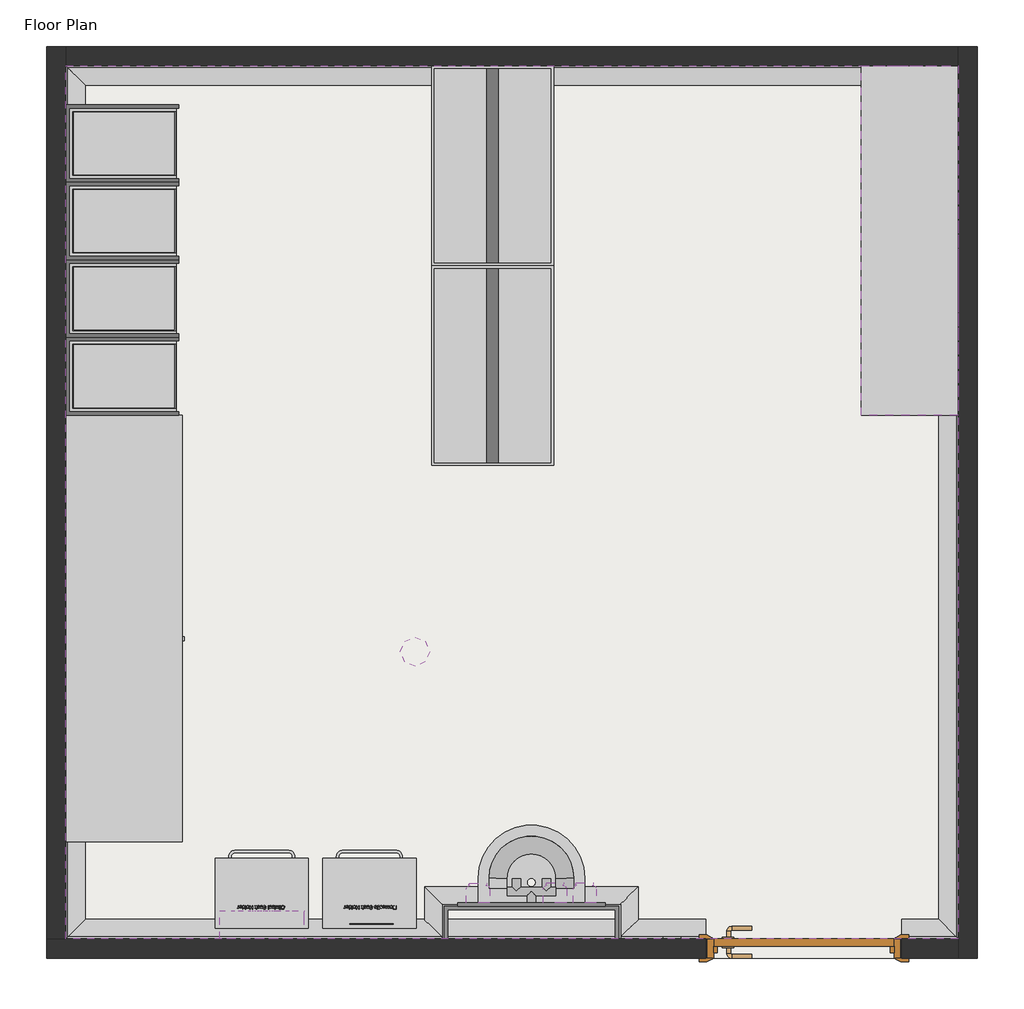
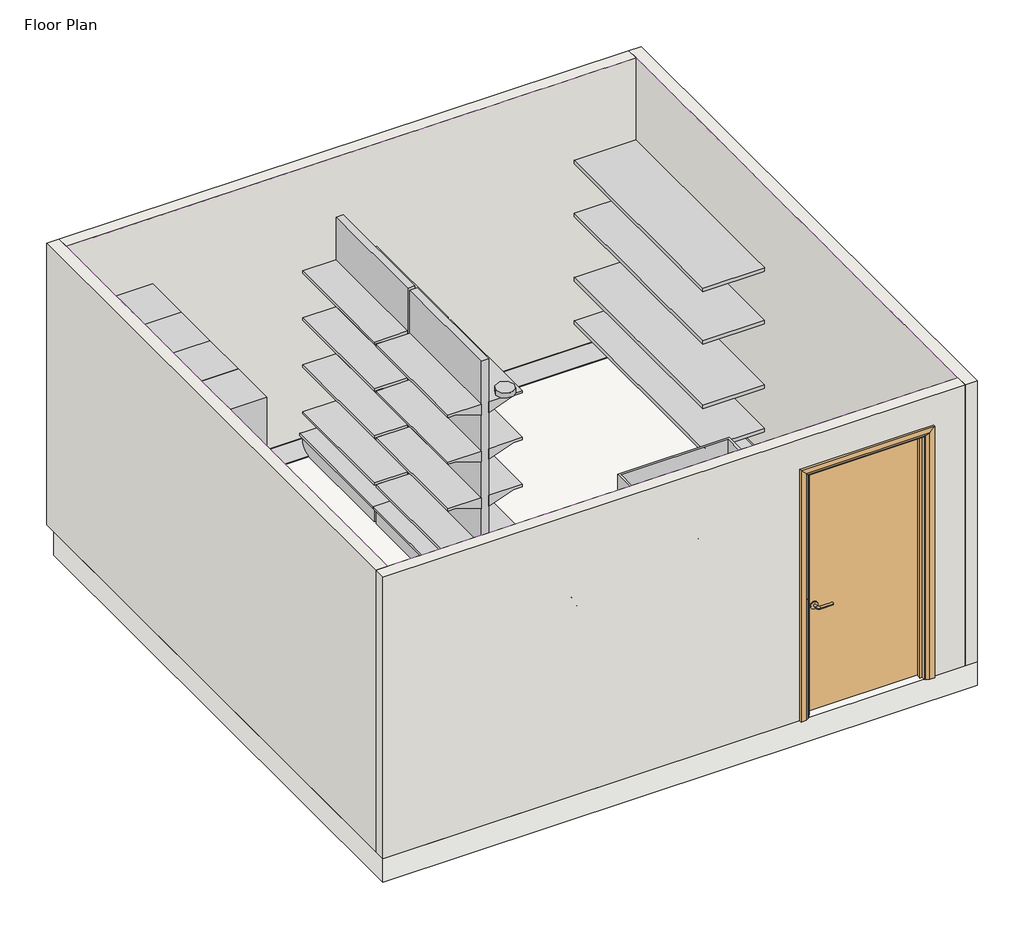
# One storey, incomplete: 20 proxies, 6 furniture elements, 4 walls, 2 flow terminals, 1 covering, 1 door, 1 slab.
"""IFC4 building model written with IfcOpenShell, lengths in millimetres."""

from ifc_helpers import new_model, si_unit, frame, origin, origin_with_axes, place, context, project, spatial, polyline, circle_curve, ellipse_curve, outline, extrude, faceted_brep, transform, mapped, element, save
from ifc_brep_helpers import plane_surface, revolved_surface, advanced_brep
from components import generic_models_60712680, generic_models_e594b69c, generic_models_75f95361, generic_models_883c4dca, generic_models_4aaa6221, generic_models_78f9e339, generic_models_7e8e4800, bimhealth_electrical_light_switch_v1_type_1_b5e59f8a, bimhealth_electrical_smoke_detector_v1_bimhealth_electrical_fe9fcb6c, doors_intsgl_1_1010x2110mm_f9eb5fde, flow_terminal_004a381b, flow_terminal_30861e1c, furniture_1db9d432, furniture_c1ab0958, furniture_6688fcf2, furniture_f7a0e78a, furniture_b2577ec9, furniture_894fabce

model = new_model("IFC4")

# Units and contexts
model_context = context("Model", 3, world=origin())
ifc_project = project(units=[si_unit("LENGTHUNIT", "METRE", prefix="MILLI")], contexts=[model_context])

# Site, building, storey
site = spatial("IfcSite", under=ifc_project)
building = spatial("IfcBuilding", under=site)
storey = spatial("IfcBuildingStorey", under=building, Name="Floor Plan", Elevation=0.0)

# Proxies
placement = place(None, origin())
element("IfcBuildingElementProxy", 1, Name="Wall Sweeps", at=placement, inside=storey, context=model_context, shape_type="AdvancedBrep", body=[
    advanced_brep(
    [(4505.0, 4915.0, 0.0), (4405.0, 4815.0, 0.0), (4405.0, 4815.0, 10.0), (4495.0, 4905.0, 100.0), (4505.0, 4915.0, 100.0), (4505.0, 415.0, 0.0), (4505.0, 415.0, 100.0), (4495.0, 425.0, 100.0), (4405.0, 515.0, 10.0), (4405.0, 515.0, 0.0)],
    [
        (0, 1),
        (1, 2),
        (2, 3, ellipse_curve(frame((4405.0, 4815.0, 100.0), z_axis=(0.7071067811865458, -0.7071067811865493, 0.0), x_axis=(-0.7071067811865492, -0.7071067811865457, 0.0)), 127.2792206, 90.0)),
        (3, 4),
        (4, 0),
        (5, 6),
        (6, 7),
        (7, 8, ellipse_curve(frame((4405.0, 515.0, 100.0), z_axis=(0.7071067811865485, 0.7071067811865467, 0.0), x_axis=(0.7071067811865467, -0.7071067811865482, 0.0)), 127.2792206, 90.0)),
        (8, 9),
        (9, 5),
        (0, 5),
        (9, 1),
        (8, 2),
        (7, 3),
        (6, 4),
    ],
    [
        plane_surface(frame((4505.0, 4915.0, 304.8), z_axis=(-0.7071067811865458, 0.7071067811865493, 0.0), x_axis=(-0.7071067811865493, -0.7071067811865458, 0.0))),
        plane_surface(frame((4505.0, 415.0, 304.8), z_axis=(-0.7071067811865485, -0.7071067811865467, 0.0), x_axis=(-0.7071067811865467, 0.7071067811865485, 0.0))),
        plane_surface(frame((4505.0, 4915.0, 0.0), z_axis=(0.0, 0.0, -1.0), x_axis=(0.0, -1.0, 0.0))),
        plane_surface(frame((4405.0, 4815.0, 0.0), z_axis=(-1.0, 0.0, 0.0), x_axis=(0.0, -1.0, 0.0))),
        revolved_surface(polyline([(4315.0, 425.0, 100.0), (4315.0, 4905.0, 100.0)]), (4405.0, 4915.0, 100.0), (0.0, -1.0, 0.0)),
        plane_surface(frame((4495.0, 4905.0, 100.0), z_axis=(0.0, 0.0, 1.0), x_axis=(0.0, -1.0, 0.0))),
        plane_surface(frame((4505.0, 4915.0, 100.0), z_axis=(1.0, 0.0, 0.0), x_axis=(0.0, -1.0, 0.0))),
    ],
    [
        (0, [[1, 2, 3, 4, 5]]),
        (1, [[6, 7, 8, 9, 10]]),
        (2, [[-1, 11, -10, 12]]),
        (3, [[-2, -12, -9, 13]]),
        (4, [[-3, -13, -8, 14]]),
        (5, [[-4, -14, -7, 15]]),
        (6, [[-5, -15, -6, -11]]),
    ],
),
])
element("IfcBuildingElementProxy", 2, Name="Wall Sweeps", at=placement, inside=storey, context=model_context, shape_type="AdvancedBrep", body=[
    advanced_brep(
    [(3205.0, 415.0, 0.0), (3205.0, 515.0, 0.0), (3205.0, 515.0, 10.0), (3205.0, 425.0, 100.0), (3205.0, 415.0, 100.0), (-95.0, 415.0, 0.0), (-95.0, 415.0, 100.0), (-85.0, 425.0, 100.0), (5.0, 515.0, 10.0), (5.0, 515.0, 0.0)],
    [
        (0, 1),
        (1, 2),
        (2, 3, circle_curve(frame((3205.0, 515.0, 100.0), z_axis=(-1.0, 0.0, 0.0), x_axis=(0.0, 1.0, 0.0)), 90.0)),
        (3, 4),
        (4, 0),
        (5, 6),
        (6, 7),
        (7, 8, ellipse_curve(frame((5.0, 515.0, 100.0), z_axis=(0.707106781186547, -0.707106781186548, 0.0), x_axis=(-0.7071067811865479, -0.707106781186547, 0.0)), 127.2792206, 90.0)),
        (8, 9),
        (9, 5),
        (0, 5),
        (9, 1),
        (8, 2),
        (7, 3),
        (6, 4),
    ],
    [
        plane_surface(frame((3205.0, 415.0, -100.4987562), z_axis=(1.0, 0.0, 0.0), x_axis=(0.0, -1.0, 0.0))),
        plane_surface(frame((-95.0, 415.0, 304.8), z_axis=(-0.707106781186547, 0.707106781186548, 0.0), x_axis=(0.707106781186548, 0.707106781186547, 0.0))),
        plane_surface(frame((3205.0, 415.0, 0.0), z_axis=(0.0, 0.0, -1.0), x_axis=(-1.0, 0.0, 0.0))),
        plane_surface(frame((3205.0, 515.0, 0.0), z_axis=(0.0, 1.0, 0.0), x_axis=(-1.0, 0.0, 0.0))),
        revolved_surface(polyline([(-85.0, 605.0, 100.0), (3205.0, 605.0, 100.0)]), (3205.0, 515.0, 100.0), (-1.0, 0.0, 0.0)),
        plane_surface(frame((3205.0, 425.0, 100.0), z_axis=(0.0, 0.0, 1.0), x_axis=(-1.0, 0.0, 0.0))),
        plane_surface(frame((3205.0, 415.0, 100.0), z_axis=(0.0, -1.0, 0.0), x_axis=(-1.0, 0.0, 0.0))),
    ],
    [
        (0, [[1, 2, 3, 4, 5]]),
        (1, [[6, 7, 8, 9, 10]]),
        (2, [[-1, 11, -10, 12]]),
        (3, [[-2, -12, -9, 13]]),
        (4, [[-3, -13, -8, 14]]),
        (5, [[-4, -14, -7, 15]]),
        (6, [[-5, -15, -6, -11]]),
    ],
),
    advanced_brep(
    [(4505.0, 415.0, 0.0), (4405.0, 515.0, 0.0), (4405.0, 515.0, 10.0), (4495.0, 425.0, 100.0), (4505.0, 415.0, 100.0), (4215.0, 415.0, 0.0), (4215.0, 415.0, 100.0), (4215.0, 425.0, 100.0), (4215.0, 515.0, 10.0), (4215.0, 515.0, 0.0)],
    [
        (0, 1),
        (1, 2),
        (2, 3, ellipse_curve(frame((4405.0, 515.0, 100.0), z_axis=(-0.7071067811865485, -0.7071067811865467, 0.0), x_axis=(-0.7071067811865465, 0.7071067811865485, 0.0)), 127.2792206, 90.0)),
        (3, 4),
        (4, 0),
        (5, 6),
        (6, 7),
        (7, 8, circle_curve(frame((4215.0, 515.0, 100.0), z_axis=(1.0, 0.0, 0.0), x_axis=(0.0, 1.0, 0.0)), 90.0)),
        (8, 9),
        (9, 5),
        (0, 5),
        (9, 1),
        (8, 2),
        (7, 3),
        (6, 4),
    ],
    [
        plane_surface(frame((4505.0, 415.0, 304.8), z_axis=(0.7071067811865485, 0.7071067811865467, 0.0), x_axis=(-0.7071067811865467, 0.7071067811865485, 0.0))),
        plane_surface(frame((4215.0, 415.0, -100.4987562), z_axis=(-1.0, 0.0, 0.0), x_axis=(0.0, -1.0, 0.0))),
        plane_surface(frame((4505.0, 415.0, 0.0), z_axis=(0.0, 0.0, -1.0), x_axis=(-1.0, 0.0, 0.0))),
        plane_surface(frame((4405.0, 515.0, 0.0), z_axis=(0.0, 1.0, 0.0), x_axis=(-1.0, 0.0, 0.0))),
        revolved_surface(polyline([(4215.0, 605.0, 100.0), (4495.0, 605.0, 100.0)]), (4505.0, 515.0, 100.0), (-1.0, 0.0, 0.0)),
        plane_surface(frame((4495.0, 425.0, 100.0), z_axis=(0.0, 0.0, 1.0), x_axis=(-1.0, 0.0, 0.0))),
        plane_surface(frame((4505.0, 415.0, 100.0), z_axis=(0.0, -1.0, 0.0), x_axis=(-1.0, 0.0, 0.0))),
    ],
    [
        (0, [[1, 2, 3, 4, 5]]),
        (1, [[6, 7, 8, 9, 10]]),
        (2, [[-1, 11, -10, 12]]),
        (3, [[-2, -12, -9, 13]]),
        (4, [[-3, -13, -8, 14]]),
        (5, [[-4, -14, -7, 15]]),
        (6, [[-5, -15, -6, -11]]),
    ],
),
])
element("IfcBuildingElementProxy", 3, Name="Wall Sweeps", at=placement, inside=storey, context=model_context, shape_type="AdvancedBrep", body=[
    advanced_brep(
    [(-95.0, 415.0, 0.0), (5.0, 515.0, 0.0), (5.0, 515.0, 10.0), (-85.0, 425.0, 100.0), (-95.0, 415.0, 100.0), (-95.0, 4915.0, 0.0), (-95.0, 4915.0, 100.0), (-85.0, 4905.0, 100.0), (5.0, 4815.0, 10.0), (5.0, 4815.0, 0.0)],
    [
        (0, 1),
        (1, 2),
        (2, 3, ellipse_curve(frame((5.0, 515.0, 100.0), z_axis=(-0.707106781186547, 0.707106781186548, 0.0), x_axis=(0.707106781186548, 0.7071067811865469, 0.0)), 127.2792206, 90.0)),
        (3, 4),
        (4, 0),
        (5, 6),
        (6, 7),
        (7, 8, ellipse_curve(frame((5.0, 4815.0, 100.0), z_axis=(-0.7071067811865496, -0.7071067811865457, 0.0), x_axis=(-0.7071067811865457, 0.7071067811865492, 0.0)), 127.2792206, 90.0)),
        (8, 9),
        (9, 5),
        (0, 5),
        (9, 1),
        (8, 2),
        (7, 3),
        (6, 4),
    ],
    [
        plane_surface(frame((-95.0, 415.0, 304.8), z_axis=(0.707106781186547, -0.707106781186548, 0.0), x_axis=(0.707106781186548, 0.707106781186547, 0.0))),
        plane_surface(frame((-95.0, 4915.0, 304.8), z_axis=(0.7071067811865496, 0.7071067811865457, 0.0), x_axis=(0.7071067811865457, -0.7071067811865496, 0.0))),
        plane_surface(frame((-95.0, 415.0, 0.0), z_axis=(0.0, 0.0, -1.0), x_axis=(0.0, 1.0, 0.0))),
        plane_surface(frame((5.0, 515.0, 0.0), z_axis=(1.0, 0.0, 0.0), x_axis=(0.0, 1.0, 0.0))),
        revolved_surface(polyline([(95.0, 4905.0, 100.0), (95.0, 425.0, 100.0)]), (5.0, 415.0, 100.0), (0.0, 1.0, 0.0)),
        plane_surface(frame((-85.0, 425.0, 100.0), z_axis=(0.0, 0.0, 1.0), x_axis=(0.0, 1.0, 0.0))),
        plane_surface(frame((-95.0, 415.0, 100.0), z_axis=(-1.0, 0.0, 0.0), x_axis=(0.0, 1.0, 0.0))),
    ],
    [
        (0, [[1, 2, 3, 4, 5]]),
        (1, [[6, 7, 8, 9, 10]]),
        (2, [[-1, 11, -10, 12]]),
        (3, [[-2, -12, -9, 13]]),
        (4, [[-3, -13, -8, 14]]),
        (5, [[-4, -14, -7, 15]]),
        (6, [[-5, -15, -6, -11]]),
    ],
),
])
element("IfcBuildingElementProxy", 4, Name="Wall Sweeps", at=placement, inside=storey, context=model_context, shape_type="AdvancedBrep", body=[
    advanced_brep(
    [(-95.0, 4915.0, 0.0), (5.0, 4815.0, 0.0), (5.0, 4815.0, 10.0), (-85.0, 4905.0, 100.0), (-95.0, 4915.0, 100.0), (4505.0, 4915.0, 0.0), (4505.0, 4915.0, 100.0), (4495.0, 4905.0, 100.0), (4405.0, 4815.0, 10.0), (4405.0, 4815.0, 0.0)],
    [
        (0, 1),
        (1, 2),
        (2, 3, ellipse_curve(frame((5.0, 4815.0, 100.0), z_axis=(0.7071067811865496, 0.7071067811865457, 0.0), x_axis=(0.7071067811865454, -0.7071067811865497, 0.0)), 127.2792206, 90.0)),
        (3, 4),
        (4, 0),
        (5, 6),
        (6, 7),
        (7, 8, ellipse_curve(frame((4405.0, 4815.0, 100.0), z_axis=(-0.7071067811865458, 0.7071067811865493, 0.0), x_axis=(0.7071067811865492, 0.7071067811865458, 0.0)), 127.2792206, 90.0)),
        (8, 9),
        (9, 5),
        (0, 5),
        (9, 1),
        (8, 2),
        (7, 3),
        (6, 4),
    ],
    [
        plane_surface(frame((-95.0, 4915.0, 304.8), z_axis=(-0.7071067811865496, -0.7071067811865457, 0.0), x_axis=(0.7071067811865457, -0.7071067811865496, 0.0))),
        plane_surface(frame((4505.0, 4915.0, 304.8), z_axis=(0.7071067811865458, -0.7071067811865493, 0.0), x_axis=(-0.7071067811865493, -0.7071067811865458, 0.0))),
        plane_surface(frame((-95.0, 4915.0, 0.0), z_axis=(0.0, 0.0, -1.0), x_axis=(1.0, 0.0, 0.0))),
        plane_surface(frame((5.0, 4815.0, 0.0), z_axis=(0.0, -1.0, 0.0), x_axis=(1.0, 0.0, 0.0))),
        revolved_surface(polyline([(4495.0, 4725.0, 100.0), (-85.0, 4725.0, 100.0)]), (-95.0, 4815.0, 100.0), (1.0, 0.0, 0.0)),
        plane_surface(frame((-85.0, 4905.0, 100.0), z_axis=(0.0, 0.0, 1.0), x_axis=(1.0, 0.0, 0.0))),
        plane_surface(frame((-95.0, 4915.0, 100.0), z_axis=(0.0, 1.0, 0.0), x_axis=(1.0, 0.0, 0.0))),
    ],
    [
        (0, [[1, 2, 3, 4, 5]]),
        (1, [[6, 7, 8, 9, 10]]),
        (2, [[-1, 11, -10, 12]]),
        (3, [[-2, -12, -9, 13]]),
        (4, [[-3, -13, -8, 14]]),
        (5, [[-4, -14, -7, 15]]),
        (6, [[-5, -15, -6, -11]]),
    ],
),
])
generic_models_shape = generic_models_60712680(model_context)
element("IfcBuildingElementProxy", 5, Name="BIMHealth-Hand_Cream_Dispenser-LOD2A-v1 : BIMHealth-Hand_Cream_Dispenser-LOD2A-v1", ObjectType="BIMHealth-Hand_Cream_Dispenser-LOD2A-v1 : BIMHealth-Hand_Cream_Dispenser-LOD2A-v1", at=placement, inside=storey, context=model_context, shape_type="MappedRepresentation", body=[
    mapped(generic_models_shape, transform((2486.4750851, 601.0, 150.0), x_axis=(-1.0000000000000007, 0.0, 0.0), y_axis=(0.0, -1.0000000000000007, 0.0), z_axis=(0.0, 0.0, 1.0))),
])
generic_models_2_shape = generic_models_e594b69c(model_context)
element("IfcBuildingElementProxy", 6, Name="BIMHealth-Worktop-LOD2A-v1 : BIMHealth-Worktop-LOD2A-v1", ObjectType="BIMHealth-Worktop-LOD2A-v1 : BIMHealth-Worktop-LOD2A-v1", at=placement, inside=storey, context=model_context, shape_type="MappedRepresentation", body=[
    mapped(generic_models_2_shape, transform((-95.0, 915.0, 0.0), x_axis=(0.0, 1.0000000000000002, 0.0), y_axis=(-1.0000000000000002, 0.0, 0.0), z_axis=(0.0, 0.0, 1.0))),
])
generic_models_3_shape = generic_models_75f95361(model_context)
element("IfcBuildingElementProxy", 7, Name="BIMHealth-500mm_deep_shelving-LOD2A-v1 : BIMHealth-500mm_deep_shelving-LOD2A-v1", ObjectType="BIMHealth-500mm_deep_shelving-LOD2A-v1 : BIMHealth-500mm_deep_shelving-LOD2A-v1", at=placement, inside=storey, context=model_context, shape_type="MappedRepresentation", body=[
    mapped(generic_models_3_shape, transform((4505.0, 4915.0, 0.0), x_axis=(0.0, -1.0000000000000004, 0.0), y_axis=(1.0000000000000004, 0.0, 0.0), z_axis=(0.0, 0.0, 1.0))),
])
element("IfcBuildingElementProxy", 8, Name="BIMHealth-500mm_deep_shelving_no_zone-LOD2A-v1 : BIMHealth-500mm_deep_shelving_no_zone-LOD2A-v1", ObjectType="BIMHealth-500mm_deep_shelving_no_zone-LOD2A-v1 : BIMHealth-500mm_deep_shelving_no_zone-LOD2A-v1", at=placement, inside=storey, context=model_context, shape_type="MappedRepresentation", body=[
    mapped(generic_models_3_shape, transform((4505.0, 4915.0, 370.0), x_axis=(0.0, -1.0000000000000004, 0.0), y_axis=(1.0000000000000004, 0.0, 0.0), z_axis=(0.0, 0.0, 1.0))),
])
element("IfcBuildingElementProxy", 9, Name="BIMHealth-500mm_deep_shelving_no_zone-LOD2A-v1 : BIMHealth-500mm_deep_shelving_no_zone-LOD2A-v1", ObjectType="BIMHealth-500mm_deep_shelving_no_zone-LOD2A-v1 : BIMHealth-500mm_deep_shelving_no_zone-LOD2A-v1", at=placement, inside=storey, context=model_context, shape_type="MappedRepresentation", body=[
    mapped(generic_models_3_shape, transform((4505.0, 4915.0, 1370.0), x_axis=(0.0, -1.0000000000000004, 0.0), y_axis=(1.0000000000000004, 0.0, 0.0), z_axis=(0.0, 0.0, 1.0))),
])
element("IfcBuildingElementProxy", 10, Name="BIMHealth-500mm_deep_shelving_no_zone-LOD2A-v1 : BIMHealth-500mm_deep_shelving_no_zone-LOD2A-v1", ObjectType="BIMHealth-500mm_deep_shelving_no_zone-LOD2A-v1 : BIMHealth-500mm_deep_shelving_no_zone-LOD2A-v1", at=placement, inside=storey, context=model_context, shape_type="MappedRepresentation", body=[
    mapped(generic_models_3_shape, transform((4505.0, 4915.0, 920.0), x_axis=(0.0, -1.0000000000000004, 0.0), y_axis=(1.0000000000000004, 0.0, 0.0), z_axis=(0.0, 0.0, 1.0))),
])
generic_models_4_shape = generic_models_883c4dca(model_context)
element("IfcBuildingElementProxy", 11, Name="BIMHealth-Racking-LOD2A-v1 : BIMHealth-Racking-LOD2A-v1", ObjectType="BIMHealth-Racking-LOD2A-v1 : BIMHealth-Racking-LOD2A-v1", at=placement, inside=storey, context=model_context, shape_type="MappedRepresentation", body=[
    mapped(generic_models_4_shape, transform((2105.0, 4400.0, 0.0), x_axis=(1.0, 0.0, 0.0), y_axis=(0.0, 1.0, 0.0), z_axis=(0.0, 0.0, 1.0))),
])
element("IfcBuildingElementProxy", 12, Name="BIMHealth-Racking-LOD2A-v1 : BIMHealth-Racking-LOD2A-v1", ObjectType="BIMHealth-Racking-LOD2A-v1 : BIMHealth-Racking-LOD2A-v1", at=placement, inside=storey, context=model_context, shape_type="MappedRepresentation", body=[
    mapped(generic_models_4_shape, transform((2105.0, 3370.0, 0.0), x_axis=(1.0, 0.0, 0.0), y_axis=(0.0, 1.0, 0.0), z_axis=(0.0, 0.0, 1.0))),
])
generic_models_5_shape = generic_models_4aaa6221(model_context)
element("IfcBuildingElementProxy", 13, Name="BIMHealth-Fridge_Drugs-LOD2A-v1 : BIMHealth-Fridge_Drugs-LOD2A-v1", ObjectType="BIMHealth-Fridge_Drugs-LOD2A-v1 : BIMHealth-Fridge_Drugs-LOD2A-v1", at=placement, inside=storey, context=model_context, shape_type="MappedRepresentation", body=[
    mapped(generic_models_5_shape, transform((-95.0, 1915.0, 0.0), x_axis=(0.0, 1.0000000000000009, 0.0), y_axis=(-1.0000000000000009, 0.0, 0.0), z_axis=(0.0, 0.0, 1.0))),
])
generic_models_6_shape = generic_models_78f9e339(model_context)
element("IfcBuildingElementProxy", 14, Name="BIMHealth-Tall_Storage_Cupboard_with_Zone-LOD2A-v1 : BIMHealth-Tall_Storage_Cupboard_with_Zone-LOD2A-v1", ObjectType="BIMHealth-Tall_Storage_Cupboard_with_Zone-LOD2A-v1 : BIMHealth-Tall_Storage_Cupboard_with_Zone-LOD2A-v1", at=placement, inside=storey, context=model_context, shape_type="MappedRepresentation", body=[
    mapped(generic_models_6_shape, transform((-95.0, 4315.0, 0.0), x_axis=(0.0, 1.0, 0.0), y_axis=(-1.0, 0.0, 0.0), z_axis=(0.0, 0.0, 1.0))),
])
element("IfcBuildingElementProxy", 15, Name="BIMHealth-Tall_Storage_Cupboard_with_Zone-LOD2A-v1 : BIMHealth-Tall_Storage_Cupboard_with_Zone-LOD2A-v1", ObjectType="BIMHealth-Tall_Storage_Cupboard_with_Zone-LOD2A-v1 : BIMHealth-Tall_Storage_Cupboard_with_Zone-LOD2A-v1", at=placement, inside=storey, context=model_context, shape_type="MappedRepresentation", body=[
    mapped(generic_models_6_shape, transform((-95.0, 3915.0, 0.0), x_axis=(0.0, 1.0000000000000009, 0.0), y_axis=(-1.0000000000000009, 0.0, 0.0), z_axis=(0.0, 0.0, 1.0))),
])
element("IfcBuildingElementProxy", 16, Name="BIMHealth-Tall_Storage_Cupboard_with_Zone-LOD2A-v1 : BIMHealth-Tall_Storage_Cupboard_with_Zone-LOD2A-v1", ObjectType="BIMHealth-Tall_Storage_Cupboard_with_Zone-LOD2A-v1 : BIMHealth-Tall_Storage_Cupboard_with_Zone-LOD2A-v1", at=placement, inside=storey, context=model_context, shape_type="MappedRepresentation", body=[
    mapped(generic_models_6_shape, transform((-95.0, 3515.0, 0.0), x_axis=(0.0, 1.0000000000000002, 0.0), y_axis=(-1.0000000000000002, 0.0, 0.0), z_axis=(0.0, 0.0, 1.0))),
])
element("IfcBuildingElementProxy", 17, Name="BIMHealth-Tall_Storage_Cupboard_with_Zone-LOD2A-v1 : BIMHealth-Tall_Storage_Cupboard_with_Zone-LOD2A-v1", ObjectType="BIMHealth-Tall_Storage_Cupboard_with_Zone-LOD2A-v1 : BIMHealth-Tall_Storage_Cupboard_with_Zone-LOD2A-v1", at=placement, inside=storey, context=model_context, shape_type="MappedRepresentation", body=[
    mapped(generic_models_6_shape, transform((-95.0, 3115.0, 0.0), x_axis=(0.0, 1.0000000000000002, 0.0), y_axis=(-1.0000000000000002, 0.0, 0.0), z_axis=(0.0, 0.0, 1.0))),
])
generic_models_7_shape = generic_models_7e8e4800(model_context)
element("IfcBuildingElementProxy", 18, Name="BIMHealth-Danicentre_ppe_Dispenser-LOD2A-v1 : BIMHealth-Danicentre_ppe_Dispenser-LOD2A-v1", ObjectType="BIMHealth-Danicentre_ppe_Dispenser-LOD2A-v1 : BIMHealth-Danicentre_ppe_Dispenser-LOD2A-v1", at=placement, inside=storey, context=model_context, shape_type="MappedRepresentation", body=[
    mapped(generic_models_7_shape, transform((697.436784, 560.0, 0.0), x_axis=(1.0, 0.0, 0.0), y_axis=(0.0, 1.0, 0.0), z_axis=(0.0, 0.0, 1.0))),
])
bimhealth_electrical_light_switch_v1_type_1_shape = bimhealth_electrical_light_switch_v1_type_1_b5e59f8a(model_context)
element("IfcBuildingElementProxy", 19, Name="BIMHealth-Electrical-Light_Switch-v1 : Type 1", ObjectType="BIMHealth-Electrical-Light_Switch-v1 : Type 1", at=placement, inside=storey, context=model_context, shape_type="MappedRepresentation", body=[
    mapped(bimhealth_electrical_light_switch_v1_type_1_shape, transform((2860.0, 365.0, -60.0), x_axis=(1.0, 0.0, 0.0), y_axis=(0.0, 1.0, 0.0), z_axis=(0.0, 0.0, 1.0))),
])
bimhealth_electrical_smoke_detector_v1_bimhealth_electrical_shape = bimhealth_electrical_smoke_detector_v1_bimhealth_electrical_fe9fcb6c(model_context)
element("IfcBuildingElementProxy", 20, Name="BIMHealth-Electrical-Smoke_Detector-v1 : BIMHealth-Electrical-Smoke_Detector-v1", ObjectType="BIMHealth-Electrical-Smoke_Detector-v1 : BIMHealth-Electrical-Smoke_Detector-v1", at=placement, inside=storey, context=model_context, shape_type="MappedRepresentation", body=[
    mapped(bimhealth_electrical_smoke_detector_v1_bimhealth_electrical_shape, transform((1705.0, 1895.0, -38.4), x_axis=(1.0, 0.0, 0.0), y_axis=(0.0, 1.0, 0.0), z_axis=(0.0, 0.0, 1.0))),
])

# Covering
element("IfcCovering", 21, ObjectType="BIMHealth - Generic Ceiling", at=placement, inside=storey, context=model_context, shape_type="SweptSolid", body=[
    extrude(outline(polyline([(4505.0, 4915.0), (4505.0, 415.0), (-95.0, 415.0), (-95.0, 4915.0), (4505.0, 4915.0)])), frame((0.0, 0.0, 2400.0), z_axis=(0.0, 0.0, 1.0), x_axis=(1.0, 0.0, 0.0)), (0.0, 0.0, 1.0), 52.0),
])

# Door
doors_intsgl_1_1010x2110mm_shape = doors_intsgl_1_1010x2110mm_f9eb5fde(model_context)
element("IfcDoor", 22, ObjectType="Doors_IntSgl_1 : 1010x2110mm", at=placement, inside=storey, context=model_context, shape_type="MappedRepresentation", body=[
    mapped(doors_intsgl_1_1010x2110mm_shape, transform((3710.0, 365.0, 0.0), x_axis=(1.0, 0.0, 0.0), y_axis=(0.0, 1.0, 0.0), z_axis=(0.0, 0.0, 1.0))),
])

# Flow terminals
flow_terminal_shape = flow_terminal_004a381b(model_context)
element("IfcFlowTerminal", 23, ObjectType="BIMHealth-Taps_IPS-LOD2A-v1 : BIMHealth-Taps_IPS-LOD2A-v1", at=placement, inside=storey, context=model_context, shape_type="MappedRepresentation", body=[
    mapped(flow_terminal_shape, transform((2429.936784, 659.1543621, 1022.0), x_axis=(-1.0000000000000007, 0.0, 0.0), y_axis=(0.0, -1.0000000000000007, 0.0), z_axis=(0.0, 0.0, 1.0))),
])
flow_terminal_2_shape = flow_terminal_30861e1c(model_context)
element("IfcFlowTerminal", 24, ObjectType="BIMHealth-Wash_basin-LOD2A-v1 : BIMHealth-Wash_basin-LOD2A-v1", at=placement, inside=storey, context=model_context, shape_type="MappedRepresentation", body=[
    mapped(flow_terminal_2_shape, transform((2579.936784, 601.0, 500.0), x_axis=(-1.0000000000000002, 0.0, 0.0), y_axis=(0.0, -1.0000000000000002, 0.0), z_axis=(0.0, 0.0, 1.0))),
])

# Furniture
furniture_shape = furniture_1db9d432(model_context)
element("IfcFurniture", 25, ObjectType="BIMHealth-Washstation-LOD2A-v1 : BIMHealth-Washstation-LOD2A-v1", at=placement, inside=storey, context=model_context, shape_type="MappedRepresentation", body=[
    mapped(furniture_shape, transform((1854.936784, 415.0, 0.0), x_axis=(-1.0000000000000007, 0.0, 0.0), y_axis=(0.0, -1.0000000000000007, 0.0), z_axis=(0.0, 0.0, 1.0))),
])
furniture_2_shape = furniture_c1ab0958(model_context)
element("IfcFurniture", 26, ObjectType="BIMHealth-Alcohol_gel_dispenser-LOD2A-v1 : BIMHealth-Alcohol_gel_dispenser-LOD2A-v1", at=placement, inside=storey, context=model_context, shape_type="MappedRepresentation", body=[
    mapped(furniture_2_shape, transform((2089.936784, 601.0, 150.0), x_axis=(-1.0000000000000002, 0.0, 0.0), y_axis=(0.0, -1.0000000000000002, 0.0), z_axis=(0.0, 0.0, 1.0))),
])
furniture_3_shape = furniture_6688fcf2(model_context)
element("IfcFurniture", 27, ObjectType="BIMHealth-Paper_Towel_Dispenser-LOD2A-v1 : BIMHealth-Paper_Towel_Dispenser-LOD2A-v1", at=placement, inside=storey, context=model_context, shape_type="MappedRepresentation", body=[
    mapped(furniture_3_shape, transform((1620.0, 415.0, 20.0), x_axis=(-1.0000000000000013, 0.0, 0.0), y_axis=(0.0, -1.0000000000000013, 0.0), z_axis=(0.0, 0.0, 1.0))),
])
furniture_4_shape = furniture_f7a0e78a(model_context)
element("IfcFurniture", 28, ObjectType="BIMHealth-Soap_Dispenser-LOD2A-v1 : BIMHealth-Soap_Dispenser-LOD2A-v1", at=placement, inside=storey, context=model_context, shape_type="MappedRepresentation", body=[
    mapped(furniture_4_shape, transform((2639.936784, 601.0, 150.0), x_axis=(-1.0000000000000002, 0.0, 0.0), y_axis=(0.0, -1.0000000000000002, 0.0), z_axis=(0.0, 0.0, 1.0))),
])
furniture_5_shape = furniture_b2577ec9(model_context)
element("IfcFurniture", 29, ObjectType="BIMHealth-Sack_Holder_Domestic-LOD2A-v1 : BIMHealth-Sack_Holder_Domestic-LOD2A-v1", at=placement, inside=storey, context=model_context, shape_type="MappedRepresentation", body=[
    mapped(furniture_5_shape, transform((1690.0, 490.0, 0.0), x_axis=(-1.0000000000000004, 0.0, 0.0), y_axis=(0.0, -1.0000000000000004, 0.0), z_axis=(0.0, 0.0, 1.0))),
])
furniture_6_shape = furniture_894fabce(model_context)
element("IfcFurniture", 30, ObjectType="BIMHealth-Sack_Holder_Clinical-LOD2A-v1 : BIMHealth-Sack_Holder_Clinical-LOD2A-v1", at=placement, inside=storey, context=model_context, shape_type="MappedRepresentation", body=[
    mapped(furniture_6_shape, transform((1134.936784, 490.0, 0.0), x_axis=(-1.0000000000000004, 0.0, 0.0), y_axis=(0.0, -1.0000000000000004, 0.0), z_axis=(0.0, 0.0, 1.0))),
])

# Slab
element("IfcSlab", 31, ObjectType="BIMHealth - Generic Floor", at=placement, inside=storey, context=model_context, shape_type="SweptSolid", body=[
    extrude(outline(polyline([(4605.0, 4915.0), (4605.0, 315.0), (-195.0, 315.0), (-195.0, 4915.0), (4605.0, 4915.0)])), frame((0.0, 0.0, -200.0), z_axis=(0.0, 0.0, 1.0), x_axis=(1.0, 0.0, 0.0)), (0.0, 0.0, 1.0), 200.0),
])

# Walls
element("IfcWall", 32, ObjectType="BIMHealth - Generic Wall", at=placement, inside=storey, context=model_context, shape_type="Brep", body=[
    faceted_brep([(4505.0, 5015.0, 0.0), (4505.0, 4915.0, 0.0), (4505.0, 415.0, 0.0), (4505.0, 315.0, 0.0), (4505.0, 315.0, 2400.0), (4505.0, 415.0, 2400.0), (4505.0, 4915.0, 2400.0), (4505.0, 5015.0, 2400.0), (4605.0, 5015.0, 0.0), (4605.0, 5015.0, 2400.0), (4605.0, 315.0, 2400.0), (4605.0, 315.0, 0.0)], [[[0, 1, 2, 3, 4, 5, 6, 7]], [[8, 9, 10, 11]], [[3, 2, 1, 0, 8, 11]], [[7, 6, 5, 4, 10, 9]], [[4, 3, 11, 10]], [[0, 7, 9, 8]]]),
])
element("IfcWall", 33, ObjectType="BIMHealth - Generic Wall", at=placement, inside=storey, context=model_context, shape_type="Brep", body=[
    faceted_brep([(-195.0, 415.0, 2400.0), (-95.0, 415.0, 2400.0), (4505.0, 415.0, 2400.0), (4505.0, 415.0, 0.0), (4215.0, 415.0, 0.0), (4215.0, 415.0, 100.0), (4215.0, 415.0, 2110.0), (3205.0, 415.0, 2110.0), (3205.0, 415.0, 100.0), (3205.0, 415.0, 0.0), (-95.0, 415.0, 0.0), (-195.0, 415.0, 0.0), (4505.0, 315.0, 2400.0), (-195.0, 315.0, 2400.0), (-195.0, 315.0, 0.0), (3205.0, 315.0, 0.0), (3205.0, 315.0, 2110.0), (4215.0, 315.0, 2110.0), (4215.0, 315.0, 0.0), (4505.0, 315.0, 0.0)], [[[0, 1, 2, 3, 4, 5, 6, 7, 8, 9, 10, 11]], [[12, 13, 14, 15, 16, 17, 18, 19]], [[3, 19, 18, 4]], [[14, 11, 10, 9, 15]], [[2, 1, 0, 13, 12]], [[3, 2, 12, 19]], [[0, 11, 14, 13]], [[17, 6, 5, 4, 18]], [[6, 17, 16, 7]], [[7, 16, 15, 9, 8]]]),
])
element("IfcWall", 34, ObjectType="BIMHealth - Generic Wall", at=placement, inside=storey, context=model_context, shape_type="Brep", body=[
    faceted_brep([(-95.0, 415.0, 0.0), (-95.0, 4915.0, 0.0), (-95.0, 5015.0, 0.0), (-95.0, 5015.0, 2400.0), (-95.0, 4915.0, 2400.0), (-95.0, 415.0, 2400.0), (-195.0, 415.0, 0.0), (-195.0, 415.0, 2400.0), (-195.0, 5015.0, 2400.0), (-195.0, 5015.0, 0.0)], [[[0, 1, 2, 3, 4, 5]], [[6, 7, 8, 9]], [[2, 1, 0, 6, 9]], [[5, 4, 3, 8, 7]], [[0, 5, 7, 6]], [[3, 2, 9, 8]]]),
])
element("IfcWall", 35, ObjectType="BIMHealth - Generic Wall", at=placement, inside=storey, context=model_context, shape_type="SweptSolid", body=[
    extrude(outline(polyline([(4505.0, 4915.0), (-95.0, 4915.0), (-95.0, 5015.0), (4505.0, 5015.0), (4505.0, 4915.0)])), origin_with_axes(), (0.0, 0.0, 1.0), 2400.0),
])

save(model, "model.ifc")
